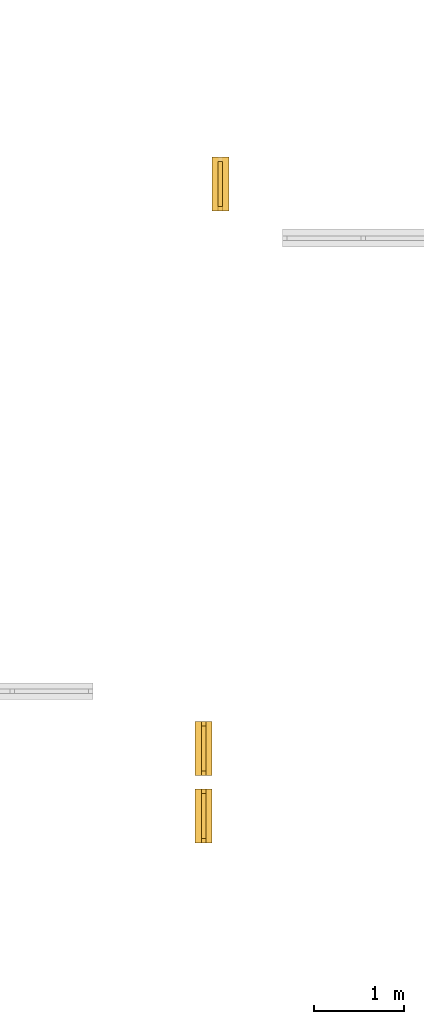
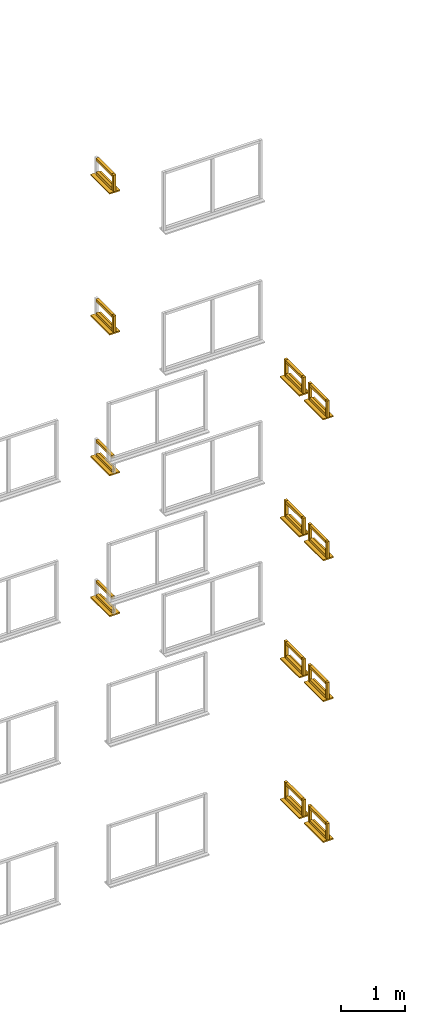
# Not in any storey, part 20 of 22: 54 windows.
"""IFC2X3 model written with IfcOpenShell, lengths in metres."""

from ifc_helpers import new_model, si_unit, frame, origin, place, context, project, faceted_brep, element, save


model = new_model("IFC2X3")

# Units and contexts
model_context = context("Model", 3, precision=1e-06, world=origin())
ifc_project = project(units=[si_unit("LENGTHUNIT", "METRE"), si_unit("PLANEANGLEUNIT", "RADIAN")], contexts=[model_context])

# Windows
placement = place(None, origin())
for number, where, z_axis, x_axis, name in (
    (1, (39.818499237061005, 5.320077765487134, 4.800000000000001), (0.0, 0.0, 1.0), (0.0, 1.0, 0.0), "topFrame"),
    (2, (39.818499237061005, 5.320077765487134, 4.535000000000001), (0.0, 0.0, 1.0), (0.0, 1.0, 0.0), "bottomFrame"),
    (3, (39.818499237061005, 5.320077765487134, 7.500000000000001), (0.0, 0.0, 1.0), (0.0, 1.0, 0.0), "topFrame"),
    (4, (39.818499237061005, 5.320077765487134, 7.235000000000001), (0.0, 0.0, 1.0), (0.0, 1.0, 0.0), "bottomFrame"),
):
    element("IfcWindow", number, at=place(placement, frame(where, z_axis=z_axis, x_axis=x_axis)), Name=name, context=model_context, shape_type="Brep", body=[
        faceted_brep([(0.0, 0.05, 0.0), (0.5, 0.05, 0.0), (0.5, 0.0, 0.0), (0.0, 0.0, 0.0), (0.5, 0.0, 0.05), (0.5, 0.05, 0.05), (0.0, 0.05, 0.05), (0.0, 0.0, 0.05), (0.0, 0.05, 0.0), (0.0, 0.0, 0.0), (0.0, 0.0, 0.05), (0.0, 0.05, 0.05), (0.5, 0.05, 0.0), (0.0, 0.05, 0.0), (0.0, 0.05, 0.05), (0.5, 0.05, 0.05), (0.5, 0.0, 0.0), (0.5, 0.05, 0.0), (0.5, 0.05, 0.05), (0.5, 0.0, 0.05), (0.0, 0.0, 0.0), (0.5, 0.0, 0.0), (0.5, 0.0, 0.05), (0.0, 0.0, 0.05)], [[[0, 1, 2, 3]], [[4, 5, 6, 7]], [[8, 9, 10, 11]], [[12, 13, 14, 15]], [[16, 17, 18, 19]], [[20, 21, 22, 23]]]),
    ])
window_1_placement = place(placement, frame((39.818499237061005, 5.270077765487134, 7.235000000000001), z_axis=(0.0, 0.0, 1.0), x_axis=(0.0, 1.0, 0.0)))
element("IfcWindow", 5, at=window_1_placement, Name="leftFrame", context=model_context, shape_type="Brep", body=[
    faceted_brep([(0.0, 0.05, 0.0), (0.05, 0.05, 0.0), (0.05, 0.0, 0.0), (0.0, 0.0, 0.0), (0.05, 0.0, 0.315), (0.05, 0.05, 0.315), (0.0, 0.05, 0.315), (0.0, 0.0, 0.315), (0.0, 0.05, 0.0), (0.0, 0.0, 0.0), (0.0, 0.0, 0.315), (0.0, 0.05, 0.315), (0.05, 0.05, 0.0), (0.0, 0.05, 0.0), (0.0, 0.05, 0.315), (0.05, 0.05, 0.315), (0.05, 0.0, 0.0), (0.05, 0.05, 0.0), (0.05, 0.05, 0.315), (0.05, 0.0, 0.315), (0.0, 0.0, 0.0), (0.05, 0.0, 0.0), (0.05, 0.0, 0.315), (0.0, 0.0, 0.315)], [[[0, 1, 2, 3]], [[4, 5, 6, 7]], [[8, 9, 10, 11]], [[12, 13, 14, 15]], [[16, 17, 18, 19]], [[20, 21, 22, 23]]]),
])
for number, where, z_axis, x_axis, name in (
    (6, (39.886999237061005, 5.270077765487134, 7.210000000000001), (0.0, 0.0, 1.0), (0.0, 1.0, 0.0), "windowSill"),
    (7, (39.886999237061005, 5.270077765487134, 9.910000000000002), (0.0, 0.0, 1.0), (0.0, 1.0, 0.0), "windowSill"),
):
    element("IfcWindow", number, at=place(placement, frame(where, z_axis=z_axis, x_axis=x_axis)), Name=name, context=model_context, shape_type="Brep", body=[
        faceted_brep([(0.0, 0.187, 0.0), (0.6, 0.187, 0.0), (0.6, 0.0, 0.0), (0.0, 0.0, 0.0), (0.6, 0.0, 0.025), (0.6, 0.187, 0.025), (0.0, 0.187, 0.025), (0.0, 0.0, 0.025), (0.0, 0.187, 0.0), (0.0, 0.0, 0.0), (0.0, 0.0, 0.025), (0.0, 0.187, 0.025), (0.6, 0.187, 0.0), (0.0, 0.187, 0.0), (0.0, 0.187, 0.025), (0.6, 0.187, 0.025), (0.6, 0.0, 0.0), (0.6, 0.187, 0.0), (0.6, 0.187, 0.025), (0.6, 0.0, 0.025), (0.0, 0.0, 0.0), (0.6, 0.0, 0.0), (0.6, 0.0, 0.025), (0.0, 0.0, 0.025)], [[[0, 1, 2, 3]], [[4, 5, 6, 7]], [[8, 9, 10, 11]], [[12, 13, 14, 15]], [[16, 17, 18, 19]], [[20, 21, 22, 23]]]),
    ])
window_2_placement = place(placement, frame((39.818499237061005, 5.270077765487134, 9.935000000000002), z_axis=(0.0, 0.0, 1.0), x_axis=(0.0, 1.0, 0.0)))
element("IfcWindow", 8, at=window_2_placement, Name="leftFrame", context=model_context, shape_type="Brep", body=[
    faceted_brep([(0.0, 0.05, 0.0), (0.05, 0.05, 0.0), (0.05, 0.0, 0.0), (0.0, 0.0, 0.0), (0.05, 0.0, 0.315), (0.05, 0.05, 0.315), (0.0, 0.05, 0.315), (0.0, 0.0, 0.315), (0.0, 0.05, 0.0), (0.0, 0.0, 0.0), (0.0, 0.0, 0.315), (0.0, 0.05, 0.315), (0.05, 0.05, 0.0), (0.0, 0.05, 0.0), (0.0, 0.05, 0.315), (0.05, 0.05, 0.315), (0.05, 0.0, 0.0), (0.05, 0.05, 0.0), (0.05, 0.05, 0.315), (0.05, 0.0, 0.315), (0.0, 0.0, 0.0), (0.05, 0.0, 0.0), (0.05, 0.0, 0.315), (0.0, 0.0, 0.315)], [[[0, 1, 2, 3]], [[4, 5, 6, 7]], [[8, 9, 10, 11]], [[12, 13, 14, 15]], [[16, 17, 18, 19]], [[20, 21, 22, 23]]]),
])
for number, where, z_axis, x_axis, name in (
    (9, (39.818499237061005, 5.320077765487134, 10.200000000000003), (0.0, 0.0, 1.0), (0.0, 1.0, 0.0), "topFrame"),
    (10, (39.818499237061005, 5.320077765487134, 9.935000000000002), (0.0, 0.0, 1.0), (0.0, 1.0, 0.0), "bottomFrame"),
    (11, (39.581499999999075, -0.458922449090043, 1.835), (0.0, 0.0, 1.0), (0.0, -1.0, 0.0), "bottomFrame"),
    (12, (39.581499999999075, -0.458922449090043, 2.100000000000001), (0.0, 0.0, 1.0), (0.0, -1.0, 0.0), "topFrame"),
):
    element("IfcWindow", number, at=place(placement, frame(where, z_axis=z_axis, x_axis=x_axis)), Name=name, context=model_context, shape_type="Brep", body=[
        faceted_brep([(0.0, 0.05, 0.0), (0.5, 0.05, 0.0), (0.5, 0.0, 0.0), (0.0, 0.0, 0.0), (0.5, 0.0, 0.05), (0.5, 0.05, 0.05), (0.0, 0.05, 0.05), (0.0, 0.0, 0.05), (0.0, 0.05, 0.0), (0.0, 0.0, 0.0), (0.0, 0.0, 0.05), (0.0, 0.05, 0.05), (0.5, 0.05, 0.0), (0.0, 0.05, 0.0), (0.0, 0.05, 0.05), (0.5, 0.05, 0.05), (0.5, 0.0, 0.0), (0.5, 0.05, 0.0), (0.5, 0.05, 0.05), (0.5, 0.0, 0.05), (0.0, 0.0, 0.0), (0.5, 0.0, 0.0), (0.5, 0.0, 0.05), (0.0, 0.0, 0.05)], [[[0, 1, 2, 3]], [[4, 5, 6, 7]], [[8, 9, 10, 11]], [[12, 13, 14, 15]], [[16, 17, 18, 19]], [[20, 21, 22, 23]]]),
    ])
for number, where, z_axis, x_axis, name in (
    (13, (39.581499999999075, -0.408922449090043, 1.835), (0.0, 0.0, 1.0), (0.0, -1.0, 0.0), "leftFrame"),
    (14, (39.581499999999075, -0.958922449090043, 1.835), (0.0, 0.0, 1.0), (0.0, -1.0, 0.0), "rightFrame"),
):
    element("IfcWindow", number, at=place(placement, frame(where, z_axis=z_axis, x_axis=x_axis)), Name=name, context=model_context, shape_type="Brep", body=[
        faceted_brep([(0.0, 0.05, 0.0), (0.05, 0.05, 0.0), (0.05, 0.0, 0.0), (0.0, 0.0, 0.0), (0.05, 0.0, 0.315), (0.05, 0.05, 0.315), (0.0, 0.05, 0.315), (0.0, 0.0, 0.315), (0.0, 0.05, 0.0), (0.0, 0.0, 0.0), (0.0, 0.0, 0.315), (0.0, 0.05, 0.315), (0.05, 0.05, 0.0), (0.0, 0.05, 0.0), (0.0, 0.05, 0.315), (0.05, 0.05, 0.315), (0.05, 0.0, 0.0), (0.05, 0.05, 0.0), (0.05, 0.05, 0.315), (0.05, 0.0, 0.315), (0.0, 0.0, 0.0), (0.05, 0.0, 0.0), (0.05, 0.0, 0.315), (0.0, 0.0, 0.315)], [[[0, 1, 2, 3]], [[4, 5, 6, 7]], [[8, 9, 10, 11]], [[12, 13, 14, 15]], [[16, 17, 18, 19]], [[20, 21, 22, 23]]]),
    ])
for number, where, z_axis, x_axis, name in (
    (15, (39.512999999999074, -0.408922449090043, 4.510000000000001), (0.0, 0.0, 1.0), (0.0, -1.0, 0.0), "windowSill"),
    (16, (39.512999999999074, -0.408922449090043, 1.810000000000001), (0.0, 0.0, 1.0), (0.0, -1.0, 0.0), "windowSill"),
):
    element("IfcWindow", number, at=place(placement, frame(where, z_axis=z_axis, x_axis=x_axis)), Name=name, context=model_context, shape_type="Brep", body=[
        faceted_brep([(0.0, 0.186999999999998, 0.0), (0.6, 0.186999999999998, 0.0), (0.6, 0.0, 0.0), (0.0, 0.0, 0.0), (0.6, 0.0, 0.025), (0.6, 0.186999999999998, 0.025), (0.0, 0.186999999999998, 0.025), (0.0, 0.0, 0.025), (0.0, 0.186999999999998, 0.0), (0.0, 0.0, 0.0), (0.0, 0.0, 0.025), (0.0, 0.186999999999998, 0.025), (0.6, 0.186999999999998, 0.0), (0.0, 0.186999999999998, 0.0), (0.0, 0.186999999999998, 0.025), (0.6, 0.186999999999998, 0.025), (0.6, 0.0, 0.0), (0.6, 0.186999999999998, 0.0), (0.6, 0.186999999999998, 0.025), (0.6, 0.0, 0.025), (0.0, 0.0, 0.0), (0.6, 0.0, 0.0), (0.6, 0.0, 0.025), (0.0, 0.0, 0.025)], [[[0, 1, 2, 3]], [[4, 5, 6, 7]], [[8, 9, 10, 11]], [[12, 13, 14, 15]], [[16, 17, 18, 19]], [[20, 21, 22, 23]]]),
    ])
window_3_placement = place(placement, frame((39.512999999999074, -1.158922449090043, 4.510000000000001), z_axis=(0.0, 0.0, 1.0), x_axis=(0.0, -1.0, 0.0)))
element("IfcWindow", 17, at=window_3_placement, Name="windowSill", context=model_context, shape_type="Brep", body=[
    faceted_brep([(0.0, 0.187, 0.0), (0.6, 0.187, 0.0), (0.6, 0.0, 0.0), (0.0, 0.0, 0.0), (0.6, 0.0, 0.025), (0.6, 0.187, 0.025), (0.0, 0.187, 0.025), (0.0, 0.0, 0.025), (0.0, 0.187, 0.0), (0.0, 0.0, 0.0), (0.0, 0.0, 0.025), (0.0, 0.187, 0.025), (0.6, 0.187, 0.0), (0.0, 0.187, 0.0), (0.0, 0.187, 0.025), (0.6, 0.187, 0.025), (0.6, 0.0, 0.0), (0.6, 0.187, 0.0), (0.6, 0.187, 0.025), (0.6, 0.0, 0.025), (0.0, 0.0, 0.0), (0.6, 0.0, 0.0), (0.6, 0.0, 0.025), (0.0, 0.0, 0.025)], [[[0, 1, 2, 3]], [[4, 5, 6, 7]], [[8, 9, 10, 11]], [[12, 13, 14, 15]], [[16, 17, 18, 19]], [[20, 21, 22, 23]]]),
])
window_4_placement = place(placement, frame((39.581499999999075, -1.208922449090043, 4.800000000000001), z_axis=(0.0, 0.0, 1.0), x_axis=(0.0, -1.0, 0.0)))
element("IfcWindow", 18, at=window_4_placement, Name="topFrame", context=model_context, shape_type="Brep", body=[
    faceted_brep([(0.0, 0.05, 0.0), (0.5, 0.05, 0.0), (0.5, 0.0, 0.0), (0.0, 0.0, 0.0), (0.5, 0.0, 0.05), (0.5, 0.05, 0.05), (0.0, 0.05, 0.05), (0.0, 0.0, 0.05), (0.0, 0.05, 0.0), (0.0, 0.0, 0.0), (0.0, 0.0, 0.05), (0.0, 0.05, 0.05), (0.5, 0.05, 0.0), (0.0, 0.05, 0.0), (0.0, 0.05, 0.05), (0.5, 0.05, 0.05), (0.5, 0.0, 0.0), (0.5, 0.05, 0.0), (0.5, 0.05, 0.05), (0.5, 0.0, 0.05), (0.0, 0.0, 0.0), (0.5, 0.0, 0.0), (0.5, 0.0, 0.05), (0.0, 0.0, 0.05)], [[[0, 1, 2, 3]], [[4, 5, 6, 7]], [[8, 9, 10, 11]], [[12, 13, 14, 15]], [[16, 17, 18, 19]], [[20, 21, 22, 23]]]),
])
window_5_placement = place(placement, frame((39.581499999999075, -1.708922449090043, 4.535000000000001), z_axis=(0.0, 0.0, 1.0), x_axis=(0.0, -1.0, 0.0)))
element("IfcWindow", 19, at=window_5_placement, Name="rightFrame", context=model_context, shape_type="Brep", body=[
    faceted_brep([(0.0, 0.05, 0.0), (0.05, 0.05, 0.0), (0.05, 0.0, 0.0), (0.0, 0.0, 0.0), (0.05, 0.0, 0.315), (0.05, 0.05, 0.315), (0.0, 0.05, 0.315), (0.0, 0.0, 0.315), (0.0, 0.05, 0.0), (0.0, 0.0, 0.0), (0.0, 0.0, 0.315), (0.0, 0.05, 0.315), (0.05, 0.05, 0.0), (0.0, 0.05, 0.0), (0.0, 0.05, 0.315), (0.05, 0.05, 0.315), (0.05, 0.0, 0.0), (0.05, 0.05, 0.0), (0.05, 0.05, 0.315), (0.05, 0.0, 0.315), (0.0, 0.0, 0.0), (0.05, 0.0, 0.0), (0.05, 0.0, 0.315), (0.0, 0.0, 0.315)], [[[0, 1, 2, 3]], [[4, 5, 6, 7]], [[8, 9, 10, 11]], [[12, 13, 14, 15]], [[16, 17, 18, 19]], [[20, 21, 22, 23]]]),
])
window_6_placement = place(placement, frame((39.581499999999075, -1.208922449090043, 4.535000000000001), z_axis=(0.0, 0.0, 1.0), x_axis=(0.0, -1.0, 0.0)))
element("IfcWindow", 20, at=window_6_placement, Name="bottomFrame", context=model_context, shape_type="Brep", body=[
    faceted_brep([(0.0, 0.05, 0.0), (0.5, 0.05, 0.0), (0.5, 0.0, 0.0), (0.0, 0.0, 0.0), (0.5, 0.0, 0.05), (0.5, 0.05, 0.05), (0.0, 0.05, 0.05), (0.0, 0.0, 0.05), (0.0, 0.05, 0.0), (0.0, 0.0, 0.0), (0.0, 0.0, 0.05), (0.0, 0.05, 0.05), (0.5, 0.05, 0.0), (0.0, 0.05, 0.0), (0.0, 0.05, 0.05), (0.5, 0.05, 0.05), (0.5, 0.0, 0.0), (0.5, 0.05, 0.0), (0.5, 0.05, 0.05), (0.5, 0.0, 0.05), (0.0, 0.0, 0.0), (0.5, 0.0, 0.0), (0.5, 0.0, 0.05), (0.0, 0.0, 0.05)], [[[0, 1, 2, 3]], [[4, 5, 6, 7]], [[8, 9, 10, 11]], [[12, 13, 14, 15]], [[16, 17, 18, 19]], [[20, 21, 22, 23]]]),
])
window_7_placement = place(placement, frame((39.581499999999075, -0.958922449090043, 4.535000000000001), z_axis=(0.0, 0.0, 1.0), x_axis=(0.0, -1.0, 0.0)))
element("IfcWindow", 21, at=window_7_placement, Name="rightFrame", context=model_context, shape_type="Brep", body=[
    faceted_brep([(0.0, 0.05, 0.0), (0.05, 0.05, 0.0), (0.05, 0.0, 0.0), (0.0, 0.0, 0.0), (0.05, 0.0, 0.315), (0.05, 0.05, 0.315), (0.0, 0.05, 0.315), (0.0, 0.0, 0.315), (0.0, 0.05, 0.0), (0.0, 0.0, 0.0), (0.0, 0.0, 0.315), (0.0, 0.05, 0.315), (0.05, 0.05, 0.0), (0.0, 0.05, 0.0), (0.0, 0.05, 0.315), (0.05, 0.05, 0.315), (0.05, 0.0, 0.0), (0.05, 0.05, 0.0), (0.05, 0.05, 0.315), (0.05, 0.0, 0.315), (0.0, 0.0, 0.0), (0.05, 0.0, 0.0), (0.05, 0.0, 0.315), (0.0, 0.0, 0.315)], [[[0, 1, 2, 3]], [[4, 5, 6, 7]], [[8, 9, 10, 11]], [[12, 13, 14, 15]], [[16, 17, 18, 19]], [[20, 21, 22, 23]]]),
])
window_8_placement = place(placement, frame((39.581499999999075, -0.458922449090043, 4.800000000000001), z_axis=(0.0, 0.0, 1.0), x_axis=(0.0, -1.0, 0.0)))
element("IfcWindow", 22, at=window_8_placement, Name="topFrame", context=model_context, shape_type="Brep", body=[
    faceted_brep([(0.0, 0.05, 0.0), (0.5, 0.05, 0.0), (0.5, 0.0, 0.0), (0.0, 0.0, 0.0), (0.5, 0.0, 0.05), (0.5, 0.05, 0.05), (0.0, 0.05, 0.05), (0.0, 0.0, 0.05), (0.0, 0.05, 0.0), (0.0, 0.0, 0.0), (0.0, 0.0, 0.05), (0.0, 0.05, 0.05), (0.5, 0.05, 0.0), (0.0, 0.05, 0.0), (0.0, 0.05, 0.05), (0.5, 0.05, 0.05), (0.5, 0.0, 0.0), (0.5, 0.05, 0.0), (0.5, 0.05, 0.05), (0.5, 0.0, 0.05), (0.0, 0.0, 0.0), (0.5, 0.0, 0.0), (0.5, 0.0, 0.05), (0.0, 0.0, 0.05)], [[[0, 1, 2, 3]], [[4, 5, 6, 7]], [[8, 9, 10, 11]], [[12, 13, 14, 15]], [[16, 17, 18, 19]], [[20, 21, 22, 23]]]),
])
window_9_placement = place(placement, frame((39.581499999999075, -0.408922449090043, 4.535000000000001), z_axis=(0.0, 0.0, 1.0), x_axis=(0.0, -1.0, 0.0)))
element("IfcWindow", 23, at=window_9_placement, Name="leftFrame", context=model_context, shape_type="Brep", body=[
    faceted_brep([(0.0, 0.05, 0.0), (0.05, 0.05, 0.0), (0.05, 0.0, 0.0), (0.0, 0.0, 0.0), (0.05, 0.0, 0.315), (0.05, 0.05, 0.315), (0.0, 0.05, 0.315), (0.0, 0.0, 0.315), (0.0, 0.05, 0.0), (0.0, 0.0, 0.0), (0.0, 0.0, 0.315), (0.0, 0.05, 0.315), (0.05, 0.05, 0.0), (0.0, 0.05, 0.0), (0.0, 0.05, 0.315), (0.05, 0.05, 0.315), (0.05, 0.0, 0.0), (0.05, 0.05, 0.0), (0.05, 0.05, 0.315), (0.05, 0.0, 0.315), (0.0, 0.0, 0.0), (0.05, 0.0, 0.0), (0.05, 0.0, 0.315), (0.0, 0.0, 0.315)], [[[0, 1, 2, 3]], [[4, 5, 6, 7]], [[8, 9, 10, 11]], [[12, 13, 14, 15]], [[16, 17, 18, 19]], [[20, 21, 22, 23]]]),
])
for number, where, z_axis, x_axis, name in (
    (24, (39.581499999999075, -0.458922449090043, 4.535000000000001), (0.0, 0.0, 1.0), (0.0, -1.0, 0.0), "bottomFrame"),
    (25, (39.581499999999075, -0.458922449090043, 7.235000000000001), (0.0, 0.0, 1.0), (0.0, -1.0, 0.0), "bottomFrame"),
):
    element("IfcWindow", number, at=place(placement, frame(where, z_axis=z_axis, x_axis=x_axis)), Name=name, context=model_context, shape_type="Brep", body=[
        faceted_brep([(0.0, 0.05, 0.0), (0.5, 0.05, 0.0), (0.5, 0.0, 0.0), (0.0, 0.0, 0.0), (0.5, 0.0, 0.05), (0.5, 0.05, 0.05), (0.0, 0.05, 0.05), (0.0, 0.0, 0.05), (0.0, 0.05, 0.0), (0.0, 0.0, 0.0), (0.0, 0.0, 0.05), (0.0, 0.05, 0.05), (0.5, 0.05, 0.0), (0.0, 0.05, 0.0), (0.0, 0.05, 0.05), (0.5, 0.05, 0.05), (0.5, 0.0, 0.0), (0.5, 0.05, 0.0), (0.5, 0.05, 0.05), (0.5, 0.0, 0.05), (0.0, 0.0, 0.0), (0.5, 0.0, 0.0), (0.5, 0.0, 0.05), (0.0, 0.0, 0.05)], [[[0, 1, 2, 3]], [[4, 5, 6, 7]], [[8, 9, 10, 11]], [[12, 13, 14, 15]], [[16, 17, 18, 19]], [[20, 21, 22, 23]]]),
    ])
for number, where, z_axis, x_axis, name in (
    (26, (39.581499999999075, -0.408922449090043, 7.235000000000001), (0.0, 0.0, 1.0), (0.0, -1.0, 0.0), "leftFrame"),
    (27, (39.581499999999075, -0.958922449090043, 7.235000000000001), (0.0, 0.0, 1.0), (0.0, -1.0, 0.0), "rightFrame"),
):
    element("IfcWindow", number, at=place(placement, frame(where, z_axis=z_axis, x_axis=x_axis)), Name=name, context=model_context, shape_type="Brep", body=[
        faceted_brep([(0.0, 0.05, 0.0), (0.05, 0.05, 0.0), (0.05, 0.0, 0.0), (0.0, 0.0, 0.0), (0.05, 0.0, 0.315), (0.05, 0.05, 0.315), (0.0, 0.05, 0.315), (0.0, 0.0, 0.315), (0.0, 0.05, 0.0), (0.0, 0.0, 0.0), (0.0, 0.0, 0.315), (0.0, 0.05, 0.315), (0.05, 0.05, 0.0), (0.0, 0.05, 0.0), (0.0, 0.05, 0.315), (0.05, 0.05, 0.315), (0.05, 0.0, 0.0), (0.05, 0.05, 0.0), (0.05, 0.05, 0.315), (0.05, 0.0, 0.315), (0.0, 0.0, 0.0), (0.05, 0.0, 0.0), (0.05, 0.0, 0.315), (0.0, 0.0, 0.315)], [[[0, 1, 2, 3]], [[4, 5, 6, 7]], [[8, 9, 10, 11]], [[12, 13, 14, 15]], [[16, 17, 18, 19]], [[20, 21, 22, 23]]]),
    ])
window_10_placement = place(placement, frame((39.512999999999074, -0.408922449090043, 7.210000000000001), z_axis=(0.0, 0.0, 1.0), x_axis=(0.0, -1.0, 0.0)))
element("IfcWindow", 28, at=window_10_placement, Name="windowSill", context=model_context, shape_type="Brep", body=[
    faceted_brep([(0.0, 0.186999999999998, 0.0), (0.6, 0.186999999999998, 0.0), (0.6, 0.0, 0.0), (0.0, 0.0, 0.0), (0.6, 0.0, 0.025), (0.6, 0.186999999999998, 0.025), (0.0, 0.186999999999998, 0.025), (0.0, 0.0, 0.025), (0.0, 0.186999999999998, 0.0), (0.0, 0.0, 0.0), (0.0, 0.0, 0.025), (0.0, 0.186999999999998, 0.025), (0.6, 0.186999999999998, 0.0), (0.0, 0.186999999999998, 0.0), (0.0, 0.186999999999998, 0.025), (0.6, 0.186999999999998, 0.025), (0.6, 0.0, 0.0), (0.6, 0.186999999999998, 0.0), (0.6, 0.186999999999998, 0.025), (0.6, 0.0, 0.025), (0.0, 0.0, 0.0), (0.6, 0.0, 0.0), (0.6, 0.0, 0.025), (0.0, 0.0, 0.025)], [[[0, 1, 2, 3]], [[4, 5, 6, 7]], [[8, 9, 10, 11]], [[12, 13, 14, 15]], [[16, 17, 18, 19]], [[20, 21, 22, 23]]]),
])
window_11_placement = place(placement, frame((39.581499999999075, -1.208922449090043, 7.235000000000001), z_axis=(0.0, 0.0, 1.0), x_axis=(0.0, -1.0, 0.0)))
element("IfcWindow", 29, at=window_11_placement, Name="bottomFrame", context=model_context, shape_type="Brep", body=[
    faceted_brep([(0.0, 0.05, 0.0), (0.5, 0.05, 0.0), (0.5, 0.0, 0.0), (0.0, 0.0, 0.0), (0.5, 0.0, 0.05), (0.5, 0.05, 0.05), (0.0, 0.05, 0.05), (0.0, 0.0, 0.05), (0.0, 0.05, 0.0), (0.0, 0.0, 0.0), (0.0, 0.0, 0.05), (0.0, 0.05, 0.05), (0.5, 0.05, 0.0), (0.0, 0.05, 0.0), (0.0, 0.05, 0.05), (0.5, 0.05, 0.05), (0.5, 0.0, 0.0), (0.5, 0.05, 0.0), (0.5, 0.05, 0.05), (0.5, 0.0, 0.05), (0.0, 0.0, 0.0), (0.5, 0.0, 0.0), (0.5, 0.0, 0.05), (0.0, 0.0, 0.05)], [[[0, 1, 2, 3]], [[4, 5, 6, 7]], [[8, 9, 10, 11]], [[12, 13, 14, 15]], [[16, 17, 18, 19]], [[20, 21, 22, 23]]]),
])
window_12_placement = place(placement, frame((39.581499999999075, -1.708922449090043, 7.235000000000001), z_axis=(0.0, 0.0, 1.0), x_axis=(0.0, -1.0, 0.0)))
element("IfcWindow", 30, at=window_12_placement, Name="rightFrame", context=model_context, shape_type="Brep", body=[
    faceted_brep([(0.0, 0.05, 0.0), (0.05, 0.05, 0.0), (0.05, 0.0, 0.0), (0.0, 0.0, 0.0), (0.05, 0.0, 0.315), (0.05, 0.05, 0.315), (0.0, 0.05, 0.315), (0.0, 0.0, 0.315), (0.0, 0.05, 0.0), (0.0, 0.0, 0.0), (0.0, 0.0, 0.315), (0.0, 0.05, 0.315), (0.05, 0.05, 0.0), (0.0, 0.05, 0.0), (0.0, 0.05, 0.315), (0.05, 0.05, 0.315), (0.05, 0.0, 0.0), (0.05, 0.05, 0.0), (0.05, 0.05, 0.315), (0.05, 0.0, 0.315), (0.0, 0.0, 0.0), (0.05, 0.0, 0.0), (0.05, 0.0, 0.315), (0.0, 0.0, 0.315)], [[[0, 1, 2, 3]], [[4, 5, 6, 7]], [[8, 9, 10, 11]], [[12, 13, 14, 15]], [[16, 17, 18, 19]], [[20, 21, 22, 23]]]),
])
window_13_placement = place(placement, frame((39.581499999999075, -1.208922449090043, 7.500000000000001), z_axis=(0.0, 0.0, 1.0), x_axis=(0.0, -1.0, 0.0)))
element("IfcWindow", 31, at=window_13_placement, Name="topFrame", context=model_context, shape_type="Brep", body=[
    faceted_brep([(0.0, 0.05, 0.0), (0.5, 0.05, 0.0), (0.5, 0.0, 0.0), (0.0, 0.0, 0.0), (0.5, 0.0, 0.05), (0.5, 0.05, 0.05), (0.0, 0.05, 0.05), (0.0, 0.0, 0.05), (0.0, 0.05, 0.0), (0.0, 0.0, 0.0), (0.0, 0.0, 0.05), (0.0, 0.05, 0.05), (0.5, 0.05, 0.0), (0.0, 0.05, 0.0), (0.0, 0.05, 0.05), (0.5, 0.05, 0.05), (0.5, 0.0, 0.0), (0.5, 0.05, 0.0), (0.5, 0.05, 0.05), (0.5, 0.0, 0.05), (0.0, 0.0, 0.0), (0.5, 0.0, 0.0), (0.5, 0.0, 0.05), (0.0, 0.0, 0.05)], [[[0, 1, 2, 3]], [[4, 5, 6, 7]], [[8, 9, 10, 11]], [[12, 13, 14, 15]], [[16, 17, 18, 19]], [[20, 21, 22, 23]]]),
])
window_14_placement = place(placement, frame((39.581499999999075, -1.158922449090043, 7.235000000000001), z_axis=(0.0, 0.0, 1.0), x_axis=(0.0, -1.0, 0.0)))
element("IfcWindow", 32, at=window_14_placement, Name="leftFrame", context=model_context, shape_type="Brep", body=[
    faceted_brep([(0.0, 0.05, 0.0), (0.05, 0.05, 0.0), (0.05, 0.0, 0.0), (0.0, 0.0, 0.0), (0.05, 0.0, 0.315), (0.05, 0.05, 0.315), (0.0, 0.05, 0.315), (0.0, 0.0, 0.315), (0.0, 0.05, 0.0), (0.0, 0.0, 0.0), (0.0, 0.0, 0.315), (0.0, 0.05, 0.315), (0.05, 0.05, 0.0), (0.0, 0.05, 0.0), (0.0, 0.05, 0.315), (0.05, 0.05, 0.315), (0.05, 0.0, 0.0), (0.05, 0.05, 0.0), (0.05, 0.05, 0.315), (0.05, 0.0, 0.315), (0.0, 0.0, 0.0), (0.05, 0.0, 0.0), (0.05, 0.0, 0.315), (0.0, 0.0, 0.315)], [[[0, 1, 2, 3]], [[4, 5, 6, 7]], [[8, 9, 10, 11]], [[12, 13, 14, 15]], [[16, 17, 18, 19]], [[20, 21, 22, 23]]]),
])
window_15_placement = place(placement, frame((39.512999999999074, -1.158922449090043, 7.210000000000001), z_axis=(0.0, 0.0, 1.0), x_axis=(0.0, -1.0, 0.0)))
element("IfcWindow", 33, at=window_15_placement, Name="windowSill", context=model_context, shape_type="Brep", body=[
    faceted_brep([(0.0, 0.187, 0.0), (0.6, 0.187, 0.0), (0.6, 0.0, 0.0), (0.0, 0.0, 0.0), (0.6, 0.0, 0.025), (0.6, 0.187, 0.025), (0.0, 0.187, 0.025), (0.0, 0.0, 0.025), (0.0, 0.187, 0.0), (0.0, 0.0, 0.0), (0.0, 0.0, 0.025), (0.0, 0.187, 0.025), (0.6, 0.187, 0.0), (0.0, 0.187, 0.0), (0.0, 0.187, 0.025), (0.6, 0.187, 0.025), (0.6, 0.0, 0.0), (0.6, 0.187, 0.0), (0.6, 0.187, 0.025), (0.6, 0.0, 0.025), (0.0, 0.0, 0.0), (0.6, 0.0, 0.0), (0.6, 0.0, 0.025), (0.0, 0.0, 0.025)], [[[0, 1, 2, 3]], [[4, 5, 6, 7]], [[8, 9, 10, 11]], [[12, 13, 14, 15]], [[16, 17, 18, 19]], [[20, 21, 22, 23]]]),
])
window_16_placement = place(placement, frame((39.512999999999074, -0.408922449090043, 9.910000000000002), z_axis=(0.0, 0.0, 1.0), x_axis=(0.0, -1.0, 0.0)))
element("IfcWindow", 34, at=window_16_placement, Name="windowSill", context=model_context, shape_type="Brep", body=[
    faceted_brep([(0.0, 0.186999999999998, 0.0), (0.6, 0.186999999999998, 0.0), (0.6, 0.0, 0.0), (0.0, 0.0, 0.0), (0.6, 0.0, 0.025), (0.6, 0.186999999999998, 0.025), (0.0, 0.186999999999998, 0.025), (0.0, 0.0, 0.025), (0.0, 0.186999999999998, 0.0), (0.0, 0.0, 0.0), (0.0, 0.0, 0.025), (0.0, 0.186999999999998, 0.025), (0.6, 0.186999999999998, 0.0), (0.0, 0.186999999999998, 0.0), (0.0, 0.186999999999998, 0.025), (0.6, 0.186999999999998, 0.025), (0.6, 0.0, 0.0), (0.6, 0.186999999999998, 0.0), (0.6, 0.186999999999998, 0.025), (0.6, 0.0, 0.025), (0.0, 0.0, 0.0), (0.6, 0.0, 0.0), (0.6, 0.0, 0.025), (0.0, 0.0, 0.025)], [[[0, 1, 2, 3]], [[4, 5, 6, 7]], [[8, 9, 10, 11]], [[12, 13, 14, 15]], [[16, 17, 18, 19]], [[20, 21, 22, 23]]]),
])
window_17_placement = place(placement, frame((39.581499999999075, -0.958922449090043, 9.935000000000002), z_axis=(0.0, 0.0, 1.0), x_axis=(0.0, -1.0, 0.0)))
element("IfcWindow", 35, at=window_17_placement, Name="rightFrame", context=model_context, shape_type="Brep", body=[
    faceted_brep([(0.0, 0.05, 0.0), (0.05, 0.05, 0.0), (0.05, 0.0, 0.0), (0.0, 0.0, 0.0), (0.05, 0.0, 0.315), (0.05, 0.05, 0.315), (0.0, 0.05, 0.315), (0.0, 0.0, 0.315), (0.0, 0.05, 0.0), (0.0, 0.0, 0.0), (0.0, 0.0, 0.315), (0.0, 0.05, 0.315), (0.05, 0.05, 0.0), (0.0, 0.05, 0.0), (0.0, 0.05, 0.315), (0.05, 0.05, 0.315), (0.05, 0.0, 0.0), (0.05, 0.05, 0.0), (0.05, 0.05, 0.315), (0.05, 0.0, 0.315), (0.0, 0.0, 0.0), (0.05, 0.0, 0.0), (0.05, 0.0, 0.315), (0.0, 0.0, 0.315)], [[[0, 1, 2, 3]], [[4, 5, 6, 7]], [[8, 9, 10, 11]], [[12, 13, 14, 15]], [[16, 17, 18, 19]], [[20, 21, 22, 23]]]),
])
window_18_placement = place(placement, frame((39.581499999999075, -0.458922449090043, 10.200000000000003), z_axis=(0.0, 0.0, 1.0), x_axis=(0.0, -1.0, 0.0)))
element("IfcWindow", 36, at=window_18_placement, Name="topFrame", context=model_context, shape_type="Brep", body=[
    faceted_brep([(0.0, 0.05, 0.0), (0.5, 0.05, 0.0), (0.5, 0.0, 0.0), (0.0, 0.0, 0.0), (0.5, 0.0, 0.05), (0.5, 0.05, 0.05), (0.0, 0.05, 0.05), (0.0, 0.0, 0.05), (0.0, 0.05, 0.0), (0.0, 0.0, 0.0), (0.0, 0.0, 0.05), (0.0, 0.05, 0.05), (0.5, 0.05, 0.0), (0.0, 0.05, 0.0), (0.0, 0.05, 0.05), (0.5, 0.05, 0.05), (0.5, 0.0, 0.0), (0.5, 0.05, 0.0), (0.5, 0.05, 0.05), (0.5, 0.0, 0.05), (0.0, 0.0, 0.0), (0.5, 0.0, 0.0), (0.5, 0.0, 0.05), (0.0, 0.0, 0.05)], [[[0, 1, 2, 3]], [[4, 5, 6, 7]], [[8, 9, 10, 11]], [[12, 13, 14, 15]], [[16, 17, 18, 19]], [[20, 21, 22, 23]]]),
])
window_19_placement = place(placement, frame((39.581499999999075, -0.408922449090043, 9.935000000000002), z_axis=(0.0, 0.0, 1.0), x_axis=(0.0, -1.0, 0.0)))
element("IfcWindow", 37, at=window_19_placement, Name="leftFrame", context=model_context, shape_type="Brep", body=[
    faceted_brep([(0.0, 0.05, 0.0), (0.05, 0.05, 0.0), (0.05, 0.0, 0.0), (0.0, 0.0, 0.0), (0.05, 0.0, 0.315), (0.05, 0.05, 0.315), (0.0, 0.05, 0.315), (0.0, 0.0, 0.315), (0.0, 0.05, 0.0), (0.0, 0.0, 0.0), (0.0, 0.0, 0.315), (0.0, 0.05, 0.315), (0.05, 0.05, 0.0), (0.0, 0.05, 0.0), (0.0, 0.05, 0.315), (0.05, 0.05, 0.315), (0.05, 0.0, 0.0), (0.05, 0.05, 0.0), (0.05, 0.05, 0.315), (0.05, 0.0, 0.315), (0.0, 0.0, 0.0), (0.05, 0.0, 0.0), (0.05, 0.0, 0.315), (0.0, 0.0, 0.315)], [[[0, 1, 2, 3]], [[4, 5, 6, 7]], [[8, 9, 10, 11]], [[12, 13, 14, 15]], [[16, 17, 18, 19]], [[20, 21, 22, 23]]]),
])
window_20_placement = place(placement, frame((39.581499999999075, -0.458922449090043, 9.935000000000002), z_axis=(0.0, 0.0, 1.0), x_axis=(0.0, -1.0, 0.0)))
element("IfcWindow", 38, at=window_20_placement, Name="bottomFrame", context=model_context, shape_type="Brep", body=[
    faceted_brep([(0.0, 0.05, 0.0), (0.5, 0.05, 0.0), (0.5, 0.0, 0.0), (0.0, 0.0, 0.0), (0.5, 0.0, 0.05), (0.5, 0.05, 0.05), (0.0, 0.05, 0.05), (0.0, 0.0, 0.05), (0.0, 0.05, 0.0), (0.0, 0.0, 0.0), (0.0, 0.0, 0.05), (0.0, 0.05, 0.05), (0.5, 0.05, 0.0), (0.0, 0.05, 0.0), (0.0, 0.05, 0.05), (0.5, 0.05, 0.05), (0.5, 0.0, 0.0), (0.5, 0.05, 0.0), (0.5, 0.05, 0.05), (0.5, 0.0, 0.05), (0.0, 0.0, 0.0), (0.5, 0.0, 0.0), (0.5, 0.0, 0.05), (0.0, 0.0, 0.05)], [[[0, 1, 2, 3]], [[4, 5, 6, 7]], [[8, 9, 10, 11]], [[12, 13, 14, 15]], [[16, 17, 18, 19]], [[20, 21, 22, 23]]]),
])
window_21_placement = place(placement, frame((39.581499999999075, -1.158922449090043, 9.935000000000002), z_axis=(0.0, 0.0, 1.0), x_axis=(0.0, -1.0, 0.0)))
element("IfcWindow", 39, at=window_21_placement, Name="leftFrame", context=model_context, shape_type="Brep", body=[
    faceted_brep([(0.0, 0.05, 0.0), (0.05, 0.05, 0.0), (0.05, 0.0, 0.0), (0.0, 0.0, 0.0), (0.05, 0.0, 0.315), (0.05, 0.05, 0.315), (0.0, 0.05, 0.315), (0.0, 0.0, 0.315), (0.0, 0.05, 0.0), (0.0, 0.0, 0.0), (0.0, 0.0, 0.315), (0.0, 0.05, 0.315), (0.05, 0.05, 0.0), (0.0, 0.05, 0.0), (0.0, 0.05, 0.315), (0.05, 0.05, 0.315), (0.05, 0.0, 0.0), (0.05, 0.05, 0.0), (0.05, 0.05, 0.315), (0.05, 0.0, 0.315), (0.0, 0.0, 0.0), (0.05, 0.0, 0.0), (0.05, 0.0, 0.315), (0.0, 0.0, 0.315)], [[[0, 1, 2, 3]], [[4, 5, 6, 7]], [[8, 9, 10, 11]], [[12, 13, 14, 15]], [[16, 17, 18, 19]], [[20, 21, 22, 23]]]),
])
window_22_placement = place(placement, frame((39.581499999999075, -1.208922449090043, 10.200000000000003), z_axis=(0.0, 0.0, 1.0), x_axis=(0.0, -1.0, 0.0)))
element("IfcWindow", 40, at=window_22_placement, Name="topFrame", context=model_context, shape_type="Brep", body=[
    faceted_brep([(0.0, 0.05, 0.0), (0.5, 0.05, 0.0), (0.5, 0.0, 0.0), (0.0, 0.0, 0.0), (0.5, 0.0, 0.05), (0.5, 0.05, 0.05), (0.0, 0.05, 0.05), (0.0, 0.0, 0.05), (0.0, 0.05, 0.0), (0.0, 0.0, 0.0), (0.0, 0.0, 0.05), (0.0, 0.05, 0.05), (0.5, 0.05, 0.0), (0.0, 0.05, 0.0), (0.0, 0.05, 0.05), (0.5, 0.05, 0.05), (0.5, 0.0, 0.0), (0.5, 0.05, 0.0), (0.5, 0.05, 0.05), (0.5, 0.0, 0.05), (0.0, 0.0, 0.0), (0.5, 0.0, 0.0), (0.5, 0.0, 0.05), (0.0, 0.0, 0.05)], [[[0, 1, 2, 3]], [[4, 5, 6, 7]], [[8, 9, 10, 11]], [[12, 13, 14, 15]], [[16, 17, 18, 19]], [[20, 21, 22, 23]]]),
])
window_23_placement = place(placement, frame((39.512999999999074, -1.158922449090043, 9.910000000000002), z_axis=(0.0, 0.0, 1.0), x_axis=(0.0, -1.0, 0.0)))
element("IfcWindow", 41, at=window_23_placement, Name="windowSill", context=model_context, shape_type="Brep", body=[
    faceted_brep([(0.0, 0.187, 0.0), (0.6, 0.187, 0.0), (0.6, 0.0, 0.0), (0.0, 0.0, 0.0), (0.6, 0.0, 0.025), (0.6, 0.187, 0.025), (0.0, 0.187, 0.025), (0.0, 0.0, 0.025), (0.0, 0.187, 0.0), (0.0, 0.0, 0.0), (0.0, 0.0, 0.025), (0.0, 0.187, 0.025), (0.6, 0.187, 0.0), (0.0, 0.187, 0.0), (0.0, 0.187, 0.025), (0.6, 0.187, 0.025), (0.6, 0.0, 0.0), (0.6, 0.187, 0.0), (0.6, 0.187, 0.025), (0.6, 0.0, 0.025), (0.0, 0.0, 0.0), (0.6, 0.0, 0.0), (0.6, 0.0, 0.025), (0.0, 0.0, 0.025)], [[[0, 1, 2, 3]], [[4, 5, 6, 7]], [[8, 9, 10, 11]], [[12, 13, 14, 15]], [[16, 17, 18, 19]], [[20, 21, 22, 23]]]),
])
window_24_placement = place(placement, frame((39.581499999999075, -1.708922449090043, 9.935000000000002), z_axis=(0.0, 0.0, 1.0), x_axis=(0.0, -1.0, 0.0)))
element("IfcWindow", 42, at=window_24_placement, Name="rightFrame", context=model_context, shape_type="Brep", body=[
    faceted_brep([(0.0, 0.05, 0.0), (0.05, 0.05, 0.0), (0.05, 0.0, 0.0), (0.0, 0.0, 0.0), (0.05, 0.0, 0.315), (0.05, 0.05, 0.315), (0.0, 0.05, 0.315), (0.0, 0.0, 0.315), (0.0, 0.05, 0.0), (0.0, 0.0, 0.0), (0.0, 0.0, 0.315), (0.0, 0.05, 0.315), (0.05, 0.05, 0.0), (0.0, 0.05, 0.0), (0.0, 0.05, 0.315), (0.05, 0.05, 0.315), (0.05, 0.0, 0.0), (0.05, 0.05, 0.0), (0.05, 0.05, 0.315), (0.05, 0.0, 0.315), (0.0, 0.0, 0.0), (0.05, 0.0, 0.0), (0.05, 0.0, 0.315), (0.0, 0.0, 0.315)], [[[0, 1, 2, 3]], [[4, 5, 6, 7]], [[8, 9, 10, 11]], [[12, 13, 14, 15]], [[16, 17, 18, 19]], [[20, 21, 22, 23]]]),
])
for number, where, z_axis, x_axis, name in (
    (43, (39.581499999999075, -1.208922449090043, 9.935000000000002), (0.0, 0.0, 1.0), (0.0, -1.0, 0.0), "bottomFrame"),
    (44, (39.818499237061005, 5.320077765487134, 1.835), (0.0, 0.0, 1.0), (0.0, 1.0, 0.0), "bottomFrame"),
    (45, (39.818499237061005, 5.320077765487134, 2.1), (0.0, 0.0, 1.0), (0.0, 1.0, 0.0), "topFrame"),
):
    element("IfcWindow", number, at=place(placement, frame(where, z_axis=z_axis, x_axis=x_axis)), Name=name, context=model_context, shape_type="Brep", body=[
        faceted_brep([(0.0, 0.05, 0.0), (0.5, 0.05, 0.0), (0.5, 0.0, 0.0), (0.0, 0.0, 0.0), (0.5, 0.0, 0.05), (0.5, 0.05, 0.05), (0.0, 0.05, 0.05), (0.0, 0.0, 0.05), (0.0, 0.05, 0.0), (0.0, 0.0, 0.0), (0.0, 0.0, 0.05), (0.0, 0.05, 0.05), (0.5, 0.05, 0.0), (0.0, 0.05, 0.0), (0.0, 0.05, 0.05), (0.5, 0.05, 0.05), (0.5, 0.0, 0.0), (0.5, 0.05, 0.0), (0.5, 0.05, 0.05), (0.5, 0.0, 0.05), (0.0, 0.0, 0.0), (0.5, 0.0, 0.0), (0.5, 0.0, 0.05), (0.0, 0.0, 0.05)], [[[0, 1, 2, 3]], [[4, 5, 6, 7]], [[8, 9, 10, 11]], [[12, 13, 14, 15]], [[16, 17, 18, 19]], [[20, 21, 22, 23]]]),
    ])
for number, where, z_axis, x_axis, name in (
    (46, (39.886999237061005, 5.270077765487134, 1.81), (0.0, 0.0, 1.0), (0.0, 1.0, 0.0), "windowSill"),
    (47, (39.886999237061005, 5.270077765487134, 4.510000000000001), (0.0, 0.0, 1.0), (0.0, 1.0, 0.0), "windowSill"),
):
    element("IfcWindow", number, at=place(placement, frame(where, z_axis=z_axis, x_axis=x_axis)), Name=name, context=model_context, shape_type="Brep", body=[
        faceted_brep([(0.0, 0.187, 0.0), (0.6, 0.187, 0.0), (0.6, 0.0, 0.0), (0.0, 0.0, 0.0), (0.6, 0.0, 0.025), (0.6, 0.187, 0.025), (0.0, 0.187, 0.025), (0.0, 0.0, 0.025), (0.0, 0.187, 0.0), (0.0, 0.0, 0.0), (0.0, 0.0, 0.025), (0.0, 0.187, 0.025), (0.6, 0.187, 0.0), (0.0, 0.187, 0.0), (0.0, 0.187, 0.025), (0.6, 0.187, 0.025), (0.6, 0.0, 0.0), (0.6, 0.187, 0.0), (0.6, 0.187, 0.025), (0.6, 0.0, 0.025), (0.0, 0.0, 0.0), (0.6, 0.0, 0.0), (0.6, 0.0, 0.025), (0.0, 0.0, 0.025)], [[[0, 1, 2, 3]], [[4, 5, 6, 7]], [[8, 9, 10, 11]], [[12, 13, 14, 15]], [[16, 17, 18, 19]], [[20, 21, 22, 23]]]),
    ])
for number, where, z_axis, x_axis, name in (
    (48, (39.581499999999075, -0.458922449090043, 7.500000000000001), (0.0, 0.0, 1.0), (0.0, -1.0, 0.0), "topFrame"),
    (49, (39.581499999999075, -1.208922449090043, 1.835), (0.0, 0.0, 1.0), (0.0, -1.0, 0.0), "bottomFrame"),
    (50, (39.581499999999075, -1.208922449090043, 2.100000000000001), (0.0, 0.0, 1.0), (0.0, -1.0, 0.0), "topFrame"),
):
    element("IfcWindow", number, at=place(placement, frame(where, z_axis=z_axis, x_axis=x_axis)), Name=name, context=model_context, shape_type="Brep", body=[
        faceted_brep([(0.0, 0.05, 0.0), (0.5, 0.05, 0.0), (0.5, 0.0, 0.0), (0.0, 0.0, 0.0), (0.5, 0.0, 0.05), (0.5, 0.05, 0.05), (0.0, 0.05, 0.05), (0.0, 0.0, 0.05), (0.0, 0.05, 0.0), (0.0, 0.0, 0.0), (0.0, 0.0, 0.05), (0.0, 0.05, 0.05), (0.5, 0.05, 0.0), (0.0, 0.05, 0.0), (0.0, 0.05, 0.05), (0.5, 0.05, 0.05), (0.5, 0.0, 0.0), (0.5, 0.05, 0.0), (0.5, 0.05, 0.05), (0.5, 0.0, 0.05), (0.0, 0.0, 0.0), (0.5, 0.0, 0.0), (0.5, 0.0, 0.05), (0.0, 0.0, 0.05)], [[[0, 1, 2, 3]], [[4, 5, 6, 7]], [[8, 9, 10, 11]], [[12, 13, 14, 15]], [[16, 17, 18, 19]], [[20, 21, 22, 23]]]),
    ])
for number, where, z_axis, x_axis, name in (
    (51, (39.581499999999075, -1.158922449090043, 1.835), (0.0, 0.0, 1.0), (0.0, -1.0, 0.0), "leftFrame"),
    (52, (39.581499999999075, -1.708922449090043, 1.835), (0.0, 0.0, 1.0), (0.0, -1.0, 0.0), "rightFrame"),
):
    element("IfcWindow", number, at=place(placement, frame(where, z_axis=z_axis, x_axis=x_axis)), Name=name, context=model_context, shape_type="Brep", body=[
        faceted_brep([(0.0, 0.05, 0.0), (0.05, 0.05, 0.0), (0.05, 0.0, 0.0), (0.0, 0.0, 0.0), (0.05, 0.0, 0.315), (0.05, 0.05, 0.315), (0.0, 0.05, 0.315), (0.0, 0.0, 0.315), (0.0, 0.05, 0.0), (0.0, 0.0, 0.0), (0.0, 0.0, 0.315), (0.0, 0.05, 0.315), (0.05, 0.05, 0.0), (0.0, 0.05, 0.0), (0.0, 0.05, 0.315), (0.05, 0.05, 0.315), (0.05, 0.0, 0.0), (0.05, 0.05, 0.0), (0.05, 0.05, 0.315), (0.05, 0.0, 0.315), (0.0, 0.0, 0.0), (0.05, 0.0, 0.0), (0.05, 0.0, 0.315), (0.0, 0.0, 0.315)], [[[0, 1, 2, 3]], [[4, 5, 6, 7]], [[8, 9, 10, 11]], [[12, 13, 14, 15]], [[16, 17, 18, 19]], [[20, 21, 22, 23]]]),
    ])
window_25_placement = place(placement, frame((39.512999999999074, -1.158922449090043, 1.810000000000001), z_axis=(0.0, 0.0, 1.0), x_axis=(0.0, -1.0, 0.0)))
element("IfcWindow", 53, at=window_25_placement, Name="windowSill", context=model_context, shape_type="Brep", body=[
    faceted_brep([(0.0, 0.187, 0.0), (0.6, 0.187, 0.0), (0.6, 0.0, 0.0), (0.0, 0.0, 0.0), (0.6, 0.0, 0.025), (0.6, 0.187, 0.025), (0.0, 0.187, 0.025), (0.0, 0.0, 0.025), (0.0, 0.187, 0.0), (0.0, 0.0, 0.0), (0.0, 0.0, 0.025), (0.0, 0.187, 0.025), (0.6, 0.187, 0.0), (0.0, 0.187, 0.0), (0.0, 0.187, 0.025), (0.6, 0.187, 0.025), (0.6, 0.0, 0.0), (0.6, 0.187, 0.0), (0.6, 0.187, 0.025), (0.6, 0.0, 0.025), (0.0, 0.0, 0.0), (0.6, 0.0, 0.0), (0.6, 0.0, 0.025), (0.0, 0.0, 0.025)], [[[0, 1, 2, 3]], [[4, 5, 6, 7]], [[8, 9, 10, 11]], [[12, 13, 14, 15]], [[16, 17, 18, 19]], [[20, 21, 22, 23]]]),
])
window_26_placement = place(placement, frame((39.581499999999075, -1.158922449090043, 4.535000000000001), z_axis=(0.0, 0.0, 1.0), x_axis=(0.0, -1.0, 0.0)))
element("IfcWindow", 54, at=window_26_placement, Name="leftFrame", context=model_context, shape_type="Brep", body=[
    faceted_brep([(0.0, 0.05, 0.0), (0.05, 0.05, 0.0), (0.05, 0.0, 0.0), (0.0, 0.0, 0.0), (0.05, 0.0, 0.315), (0.05, 0.05, 0.315), (0.0, 0.05, 0.315), (0.0, 0.0, 0.315), (0.0, 0.05, 0.0), (0.0, 0.0, 0.0), (0.0, 0.0, 0.315), (0.0, 0.05, 0.315), (0.05, 0.05, 0.0), (0.0, 0.05, 0.0), (0.0, 0.05, 0.315), (0.05, 0.05, 0.315), (0.05, 0.0, 0.0), (0.05, 0.05, 0.0), (0.05, 0.05, 0.315), (0.05, 0.0, 0.315), (0.0, 0.0, 0.0), (0.05, 0.0, 0.0), (0.05, 0.0, 0.315), (0.0, 0.0, 0.315)], [[[0, 1, 2, 3]], [[4, 5, 6, 7]], [[8, 9, 10, 11]], [[12, 13, 14, 15]], [[16, 17, 18, 19]], [[20, 21, 22, 23]]]),
])

save(model, "model.ifc")
